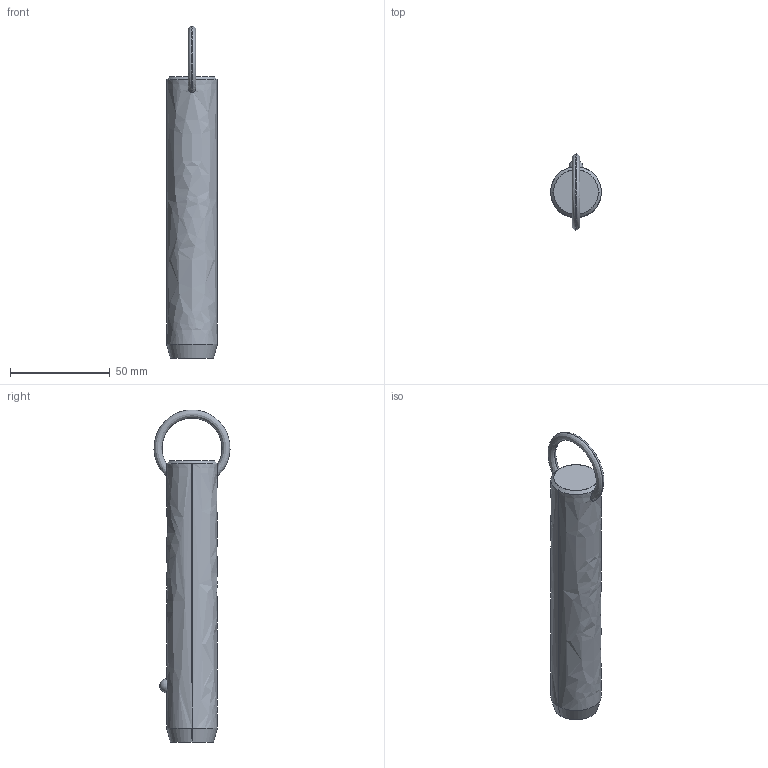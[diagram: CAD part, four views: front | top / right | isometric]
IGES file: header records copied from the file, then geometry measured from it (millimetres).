
Start section: SolidWorks IGES file using analytic representation for surfaces
Global section: file name: C:\Users\liam_\OneDrive\Documents\WORK\Work for WixRoyd\Job Files\J-00019 - Matt Davis CAD Checking\04. CAD Drawings\automotion20190605\P1250.2_v2\P1250.2_v2_20190729_IGES\P1250.100-380.igs; native system: SolidWorks 2017; preprocessor: SolidWorks 2017; author: liam_; date: 190730.173841; units: millimetre
Bounding box: 25.4 x 38.08 x 166.3 mm (x, y, z)
Surface area: 13016.6 mm2 (no closed solid volume)
Topology: 0 solids, 0 shells, 12 faces, 298 edges, 296 vertices
Faces by surface type: revolution 8, bspline 4
